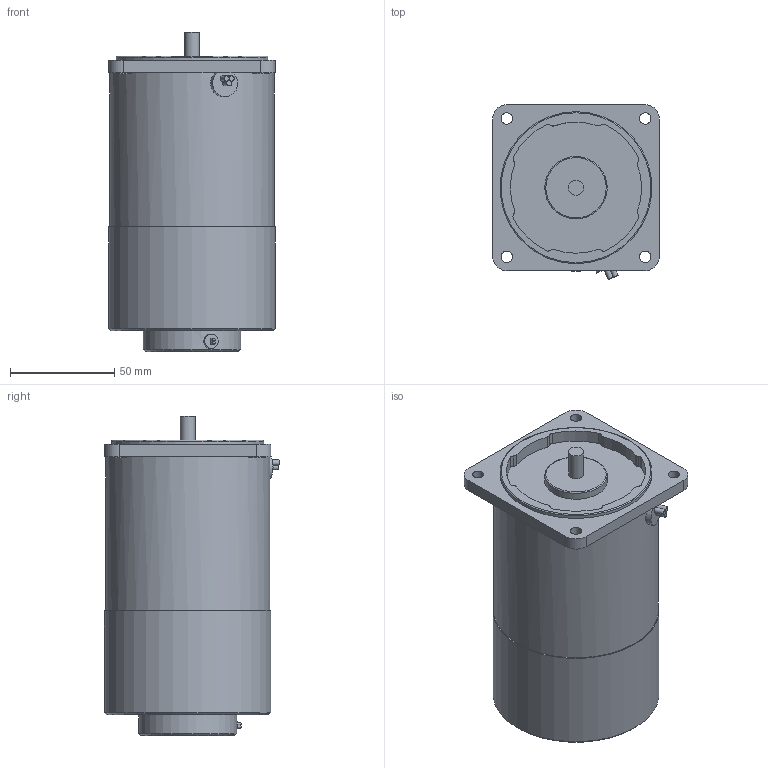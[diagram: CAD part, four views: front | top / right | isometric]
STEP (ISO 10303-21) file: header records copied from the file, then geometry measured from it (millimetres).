
FILE_DESCRIPTION((''),'2;1');
FILE_NAME('E:\2공장-도면\3D\표준형 3D(민규)\step file\D\K8RG25Nㅁ-D.stp','2014-11-17T11:03:42',('AHN'),(''),'Autodesk Inventor 2012','Autodesk Inventor 2012','');
FILE_SCHEMA(('CONFIG_CONTROL_DESIGN'));
Length unit declared in the file: millimetre
Products named in the file (1): K8RG25Nㅁ-D
Bounding box: 80 x 84.13 x 153.5 mm (x, y, z)
Volume: 661094.4 mm3; surface area: 49858.4 mm2
Topology: 1 solids, 1 shells, 82 faces, 187 edges, 116 vertices
Faces by surface type: cylinder 52, plane 26, cone 2, torus 2
Full cylindrical faces by diameter (mm): 1.4 x2, 5.5 x4, 7 x1, 7.21 x1, 8 x4, 30 x1, 47 x1, 73 x1, 79 x1, 80 x1
Entity records: 2298 total; most frequent: DIRECTION 433, CARTESIAN_POINT 420, ORIENTED_EDGE 326, AXIS2_PLACEMENT_3D 189, EDGE_CURVE 163, EDGE_LOOP 122, VERTEX_POINT 111, CIRCLE 106
